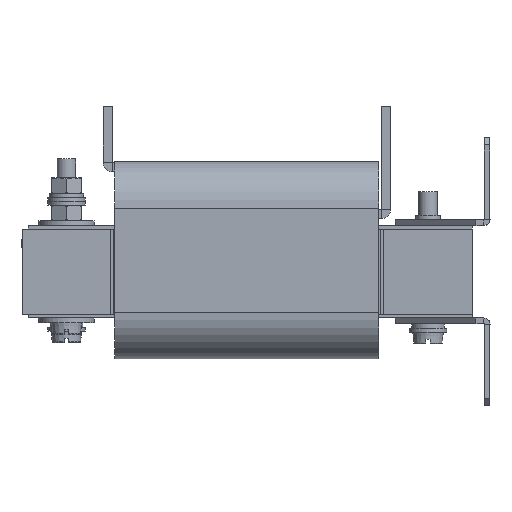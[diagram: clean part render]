
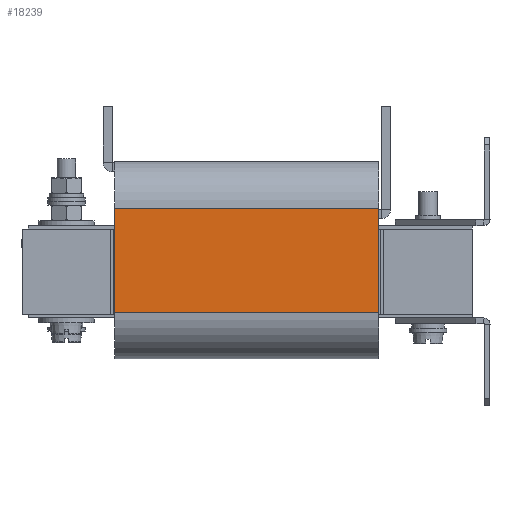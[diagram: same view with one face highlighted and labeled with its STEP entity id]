
A CAD part, left-side view. The second image highlights one B-rep face of the part: STEP entity #18239.
In plain terms, the highlighted planar face has unit normal (-1, 0, 0).
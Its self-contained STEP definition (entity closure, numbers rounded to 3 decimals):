
#439 = VECTOR ( 'NONE', #2751, 1000. ) ;
#518 = PLANE ( 'NONE',  #15791 ) ;
#555 = VECTOR ( 'NONE', #8883, 1000. ) ;
#1130 = FACE_OUTER_BOUND ( 'NONE', #18551, .T. ) ;
#1985 = CARTESIAN_POINT ( 'NONE',  ( -36.5, 113., -17.25 ) ) ;
#2256 = VERTEX_POINT ( 'NONE', #8055 ) ;
#2638 = DIRECTION ( 'NONE',  ( 0., 1., 0. ) ) ;
#2751 = DIRECTION ( 'NONE',  ( 0., -1., 0. ) ) ;
#3182 = DIRECTION ( 'NONE',  ( 0., 0., 1. ) ) ;
#3347 = VECTOR ( 'NONE', #3182, 1000. ) ;
#3644 = LINE ( 'NONE', #14205, #3347 ) ;
#4516 = CARTESIAN_POINT ( 'NONE',  ( -36.5, 113., -17.25 ) ) ;
#6175 = DIRECTION ( 'NONE',  ( 0., 0., -1. ) ) ;
#6514 = EDGE_CURVE ( 'NONE', #19743, #2256, #3644, .T. ) ;
#6831 = EDGE_CURVE ( 'NONE', #19743, #21102, #8077, .T. ) ;
#7396 = CARTESIAN_POINT ( 'NONE',  ( -36.5, 0., 27.25 ) ) ;
#7410 = VERTEX_POINT ( 'NONE', #7396 ) ;
#7534 = LINE ( 'NONE', #19918, #555 ) ;
#8055 = CARTESIAN_POINT ( 'NONE',  ( -36.5, 113., 27.25 ) ) ;
#8077 = LINE ( 'NONE', #4516, #439 ) ;
#8883 = DIRECTION ( 'NONE',  ( 0., 0., 1. ) ) ;
#9383 = VECTOR ( 'NONE', #2638, 1000. ) ;
#9700 = ORIENTED_EDGE ( 'NONE', *, *, #20145, .T. ) ;
#11539 = LINE ( 'NONE', #13694, #9383 ) ;
#13520 = ORIENTED_EDGE ( 'NONE', *, *, #6831, .T. ) ;
#13694 = CARTESIAN_POINT ( 'NONE',  ( -36.5, 113., 27.25 ) ) ;
#14205 = CARTESIAN_POINT ( 'NONE',  ( -36.5, 113., 47.25 ) ) ;
#14720 = ORIENTED_EDGE ( 'NONE', *, *, #6514, .F. ) ;
#14958 = ORIENTED_EDGE ( 'NONE', *, *, #24013, .T. ) ;
#15311 = CARTESIAN_POINT ( 'NONE',  ( -36.5, 113., 47.25 ) ) ;
#15791 = AXIS2_PLACEMENT_3D ( 'NONE', #15311, #17162, #6175 ) ;
#17162 = DIRECTION ( 'NONE',  ( 1., 0., 0. ) ) ;
#18239 = ADVANCED_FACE ( 'NONE', ( #1130 ), #518, .F. ) ;
#18551 = EDGE_LOOP ( 'NONE', ( #14720, #13520, #9700, #14958 ) ) ;
#19743 = VERTEX_POINT ( 'NONE', #1985 ) ;
#19918 = CARTESIAN_POINT ( 'NONE',  ( -36.5, 0., 47.25 ) ) ;
#20145 = EDGE_CURVE ( 'NONE', #21102, #7410, #7534, .T. ) ;
#21102 = VERTEX_POINT ( 'NONE', #22721 ) ;
#22721 = CARTESIAN_POINT ( 'NONE',  ( -36.5, 0., -17.25 ) ) ;
#24013 = EDGE_CURVE ( 'NONE', #7410, #2256, #11539, .T. ) ;
